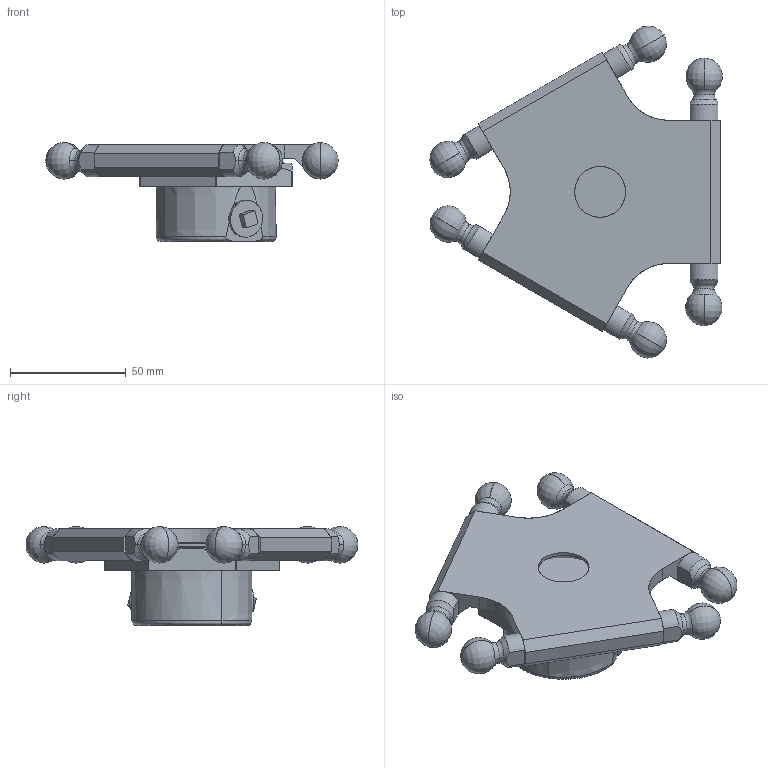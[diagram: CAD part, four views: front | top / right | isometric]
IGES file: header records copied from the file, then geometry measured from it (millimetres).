
Start section: SolidWorks IGES file using analytic representation for surfaces
Global section: file name: C:\Users\SELUHAA\Desktop\Work items\545792\IGES\IRB360_X-800-STD-4D_rev03_IGES_J\IRB360_X-800-STD-4D_rev03_PLATE_CAD.IGS; native system: SolidWorks 2022; preprocessor: SolidWorks 2022; author: SELUHAA; date: 231128.125302; units: millimetre
Bounding box: 126.58 x 143.72 x 42.94 mm (x, y, z)
Surface area: 65135.6 mm2 (no closed solid volume)
Topology: 0 solids, 0 shells, 324 faces, 5438 edges, 5428 vertices
Faces by surface type: revolution 178, bspline 146
